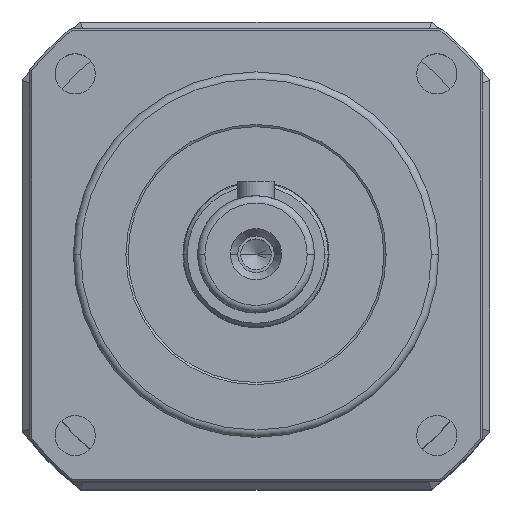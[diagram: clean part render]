
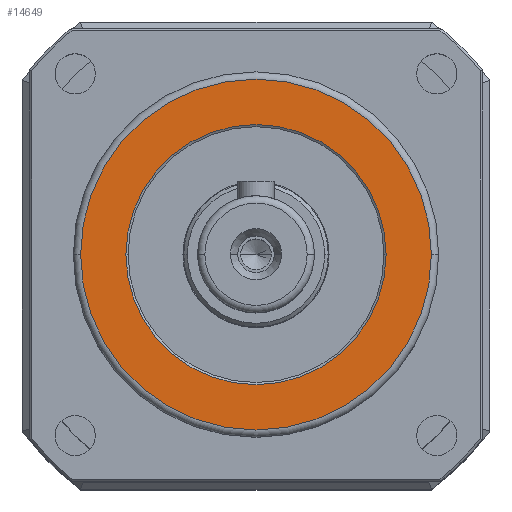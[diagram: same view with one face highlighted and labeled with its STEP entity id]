
A CAD part, top view. The second image highlights one B-rep face of the part: STEP entity #14649.
In plain terms, the highlighted planar face has unit normal (0, 0, 1).
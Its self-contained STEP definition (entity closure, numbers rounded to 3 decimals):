
#755 = CARTESIAN_POINT ( 'NONE',  ( 0., 0., 7. ) ) ;
#756 = DIRECTION ( 'NONE',  ( 0., 0., -1. ) ) ;
#757 = DIRECTION ( 'NONE',  ( 1., 0., 0. ) ) ;
#758 = CARTESIAN_POINT ( 'NONE',  ( 0., 0., 7. ) ) ;
#759 = DIRECTION ( 'NONE',  ( 0., 0., 1. ) ) ;
#760 = DIRECTION ( 'NONE',  ( 1., 0., 0. ) ) ;
#777 = PLANE ( 'NONE',  #876 ) ;
#778 = CARTESIAN_POINT ( 'NONE',  ( 0., 0., 7. ) ) ;
#779 = DIRECTION ( 'NONE',  ( 0., 0., 1. ) ) ;
#780 = DIRECTION ( 'NONE',  ( 1., 0., 0. ) ) ;
#868 = AXIS2_PLACEMENT_3D ( 'NONE', #755, #756, #757 ) ;
#870 = AXIS2_PLACEMENT_3D ( 'NONE', #758, #759, #760 ) ;
#876 = AXIS2_PLACEMENT_3D ( 'NONE', #778, #779, #780 ) ;
#1604 = EDGE_LOOP ( 'NONE', ( #11228, #11230 ) ) ;
#1605 = EDGE_LOOP ( 'NONE', ( #11232, #11231 ) ) ;
#3266 = EDGE_CURVE ( 'NONE', #11332, #11333, #7782, .T. ) ;
#4922 = EDGE_CURVE ( 'NONE', #11336, #11337, #10499, .T. ) ;
#7782 = CIRCLE ( 'NONE', #7783, 24. ) ;
#7783 = AXIS2_PLACEMENT_3D ( 'NONE', #18746, #18747, #18748 ) ;
#8078 = CARTESIAN_POINT ( 'NONE',  ( 0., 0., 7. ) ) ;
#8079 = DIRECTION ( 'NONE',  ( 0., 0., -1. ) ) ;
#8080 = DIRECTION ( 'NONE',  ( 1., 0., 0. ) ) ;
#8756 = CARTESIAN_POINT ( 'NONE',  ( 24., 0., 7. ) ) ;
#8757 = CARTESIAN_POINT ( 'NONE',  ( -24., 0., 7. ) ) ;
#8760 = CARTESIAN_POINT ( 'NONE',  ( 17.8, 0., 7. ) ) ;
#8761 = CARTESIAN_POINT ( 'NONE',  ( -17.8, 0., 7. ) ) ;
#10499 = CIRCLE ( 'NONE', #10501, 17.8 ) ;
#10501 = AXIS2_PLACEMENT_3D ( 'NONE', #8078, #8079, #8080 ) ;
#11228 = ORIENTED_EDGE ( 'NONE', *, *, #4922, .T. ) ;
#11230 = ORIENTED_EDGE ( 'NONE', *, *, #14642, .T. ) ;
#11231 = ORIENTED_EDGE ( 'NONE', *, *, #14643, .T. ) ;
#11232 = ORIENTED_EDGE ( 'NONE', *, *, #3266, .T. ) ;
#11332 = VERTEX_POINT ( 'NONE', #8756 ) ;
#11333 = VERTEX_POINT ( 'NONE', #8757 ) ;
#11336 = VERTEX_POINT ( 'NONE', #8760 ) ;
#11337 = VERTEX_POINT ( 'NONE', #8761 ) ;
#13348 = CIRCLE ( 'NONE', #868, 17.8 ) ;
#13351 = CIRCLE ( 'NONE', #870, 24. ) ;
#14642 = EDGE_CURVE ( 'NONE', #11337, #11336, #13348, .T. ) ;
#14643 = EDGE_CURVE ( 'NONE', #11333, #11332, #13351, .T. ) ;
#14649 = ADVANCED_FACE ( 'NONE', ( #18206, #18207 ), #777, .T. ) ;
#18206 = FACE_BOUND ( 'NONE', #1604, .T. ) ;
#18207 = FACE_OUTER_BOUND ( 'NONE', #1605, .T. ) ;
#18746 = CARTESIAN_POINT ( 'NONE',  ( 0., 0., 7. ) ) ;
#18747 = DIRECTION ( 'NONE',  ( 0., 0., 1. ) ) ;
#18748 = DIRECTION ( 'NONE',  ( 1., 0., 0. ) ) ;
